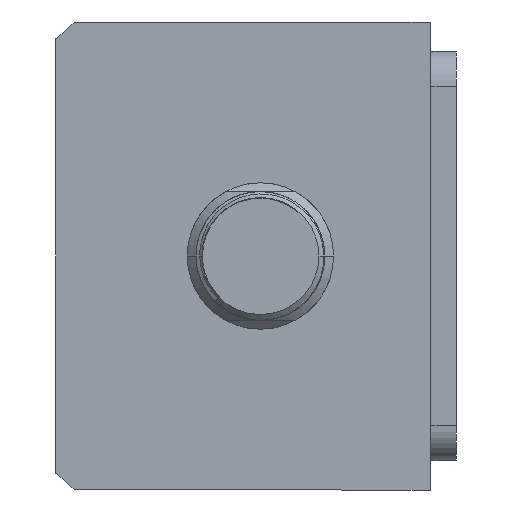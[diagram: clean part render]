
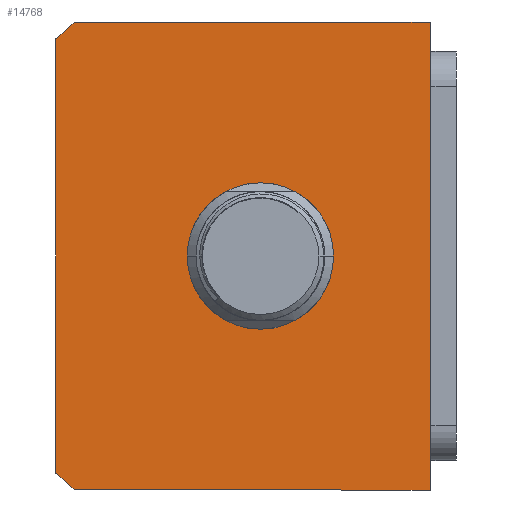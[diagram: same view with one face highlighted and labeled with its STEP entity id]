
A CAD part, front view. The second image highlights one B-rep face of the part: STEP entity #14768.
In plain terms, the highlighted planar face has unit normal (0, -1, 0) as drawn and (0, 0, -1) by its records, which use the part's own axes.
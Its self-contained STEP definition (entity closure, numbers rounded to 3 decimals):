
#132 = LINE ( 'NONE', #13896, #14157 ) ;
#355 = ORIENTED_EDGE ( 'NONE', *, *, #3525, .F. ) ;
#583 = LINE ( 'NONE', #14853, #10121 ) ;
#1390 = CIRCLE ( 'NONE', #2920, 51. ) ;
#1464 = CARTESIAN_POINT ( 'NONE',  ( 0., 0., 0. ) ) ;
#2233 = DIRECTION ( 'NONE',  ( 0., -1., 0. ) ) ;
#2680 = VERTEX_POINT ( 'NONE', #12718 ) ;
#2707 = CARTESIAN_POINT ( 'NONE',  ( 40., -11.507, 0. ) ) ;
#2767 = EDGE_CURVE ( 'NONE', #9513, #5283, #14796, .T. ) ;
#2851 = EDGE_CURVE ( 'NONE', #11259, #6538, #10319, .T. ) ;
#2920 = AXIS2_PLACEMENT_3D ( 'NONE', #4036, #13517, #5395 ) ;
#3077 = CARTESIAN_POINT ( 'NONE',  ( 0., -40.507, 0. ) ) ;
#3159 = PLANE ( 'NONE',  #7956 ) ;
#3271 = CARTESIAN_POINT ( 'NONE',  ( 40., -11.507, 0. ) ) ;
#3520 = ORIENTED_EDGE ( 'NONE', *, *, #2767, .F. ) ;
#3525 = EDGE_CURVE ( 'NONE', #8631, #17553, #1390, .T. ) ;
#3741 = LINE ( 'NONE', #2707, #17307 ) ;
#3925 = CARTESIAN_POINT ( 'NONE',  ( 12.5, -40.507, 0. ) ) ;
#4036 = CARTESIAN_POINT ( 'NONE',  ( 0., -40.507, 0. ) ) ;
#4411 = DIRECTION ( 'NONE',  ( -1., 0., 0. ) ) ;
#4445 = DIRECTION ( 'NONE',  ( 1., 0., 0. ) ) ;
#4517 = DIRECTION ( 'NONE',  ( 0., 0., 1. ) ) ;
#5106 = EDGE_CURVE ( 'NONE', #8287, #9513, #132, .T. ) ;
#5253 = EDGE_LOOP ( 'NONE', ( #13483, #17100 ) ) ;
#5283 = VERTEX_POINT ( 'NONE', #12749 ) ;
#5395 = DIRECTION ( 'NONE',  ( 1., 0., 0. ) ) ;
#6433 = CARTESIAN_POINT ( 'NONE',  ( 0., -40.507, 0. ) ) ;
#6538 = VERTEX_POINT ( 'NONE', #13664 ) ;
#7139 = ORIENTED_EDGE ( 'NONE', *, *, #5106, .F. ) ;
#7154 = VECTOR ( 'NONE', #2233, 1000. ) ;
#7337 = CIRCLE ( 'NONE', #9446, 51. ) ;
#7423 = CARTESIAN_POINT ( 'NONE',  ( 40., -72.145, 0. ) ) ;
#7739 = CARTESIAN_POINT ( 'NONE',  ( 0., -40.507, 0. ) ) ;
#7802 = DIRECTION ( 'NONE',  ( 1., 0., 0. ) ) ;
#7873 = EDGE_CURVE ( 'NONE', #2680, #8631, #583, .T. ) ;
#7956 = AXIS2_PLACEMENT_3D ( 'NONE', #1464, #4517, #14005 ) ;
#8124 = AXIS2_PLACEMENT_3D ( 'NONE', #7739, #17226, #9111 ) ;
#8234 = FACE_BOUND ( 'NONE', #5253, .T. ) ;
#8287 = VERTEX_POINT ( 'NONE', #3271 ) ;
#8631 = VERTEX_POINT ( 'NONE', #16223 ) ;
#9111 = DIRECTION ( 'NONE',  ( 1., 0., 0. ) ) ;
#9446 = AXIS2_PLACEMENT_3D ( 'NONE', #3077, #12570, #4445 ) ;
#9513 = VERTEX_POINT ( 'NONE', #10994 ) ;
#9626 = CIRCLE ( 'NONE', #11210, 12.5 ) ;
#10121 = VECTOR ( 'NONE', #16200, 1000. ) ;
#10304 = ORIENTED_EDGE ( 'NONE', *, *, #10734, .F. ) ;
#10319 = CIRCLE ( 'NONE', #8124, 12.5 ) ;
#10734 = EDGE_CURVE ( 'NONE', #5283, #2680, #7337, .T. ) ;
#10884 = DIRECTION ( 'NONE',  ( 0., 1., 0. ) ) ;
#10994 = CARTESIAN_POINT ( 'NONE',  ( -40., -11.507, 0. ) ) ;
#11192 = ORIENTED_EDGE ( 'NONE', *, *, #7873, .F. ) ;
#11210 = AXIS2_PLACEMENT_3D ( 'NONE', #6433, #15949, #7802 ) ;
#11259 = VERTEX_POINT ( 'NONE', #3925 ) ;
#12094 = EDGE_CURVE ( 'NONE', #6538, #11259, #9626, .T. ) ;
#12570 = DIRECTION ( 'NONE',  ( 0., 0., 1. ) ) ;
#12718 = CARTESIAN_POINT ( 'NONE',  ( -37.094, -75.507, 0. ) ) ;
#12749 = CARTESIAN_POINT ( 'NONE',  ( -40., -72.145, 0. ) ) ;
#13483 = ORIENTED_EDGE ( 'NONE', *, *, #2851, .T. ) ;
#13517 = DIRECTION ( 'NONE',  ( 0., 0., 1. ) ) ;
#13664 = CARTESIAN_POINT ( 'NONE',  ( -12.5, -40.507, 0. ) ) ;
#13896 = CARTESIAN_POINT ( 'NONE',  ( -40., -11.507, 0. ) ) ;
#14005 = DIRECTION ( 'NONE',  ( 1., 0., 0. ) ) ;
#14125 = CARTESIAN_POINT ( 'NONE',  ( -40., -11.507, 0. ) ) ;
#14157 = VECTOR ( 'NONE', #4411, 1000. ) ;
#14343 = ORIENTED_EDGE ( 'NONE', *, *, #16848, .F. ) ;
#14768 = ADVANCED_FACE ( 'NONE', ( #8234, #15488 ), #3159, .F. ) ;
#14796 = LINE ( 'NONE', #14125, #7154 ) ;
#14853 = CARTESIAN_POINT ( 'NONE',  ( -40., -75.507, 0. ) ) ;
#15488 = FACE_OUTER_BOUND ( 'NONE', #15682, .T. ) ;
#15682 = EDGE_LOOP ( 'NONE', ( #10304, #3520, #7139, #14343, #355, #11192 ) ) ;
#15949 = DIRECTION ( 'NONE',  ( 0., 0., 1. ) ) ;
#16200 = DIRECTION ( 'NONE',  ( 1., 0., 0. ) ) ;
#16223 = CARTESIAN_POINT ( 'NONE',  ( 37.094, -75.507, 0. ) ) ;
#16848 = EDGE_CURVE ( 'NONE', #17553, #8287, #3741, .T. ) ;
#17100 = ORIENTED_EDGE ( 'NONE', *, *, #12094, .T. ) ;
#17226 = DIRECTION ( 'NONE',  ( 0., 0., 1. ) ) ;
#17307 = VECTOR ( 'NONE', #10884, 1000. ) ;
#17553 = VERTEX_POINT ( 'NONE', #7423 ) ;
